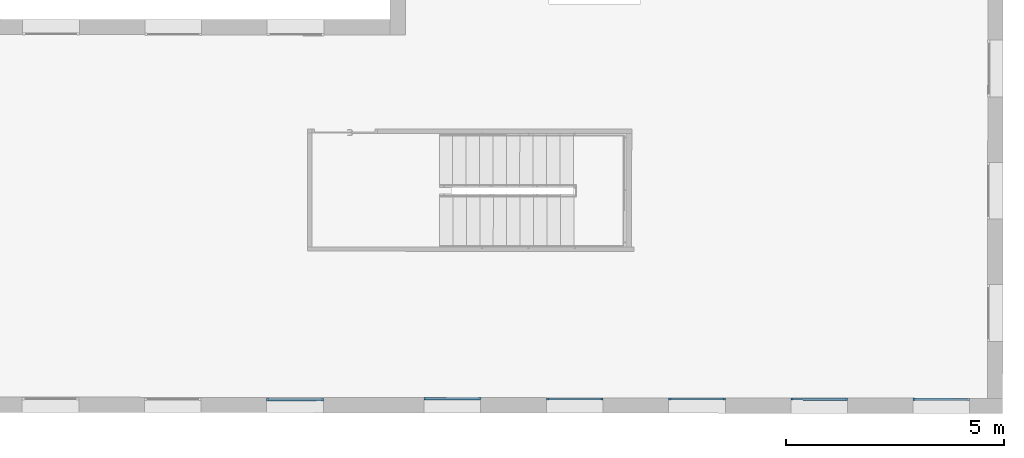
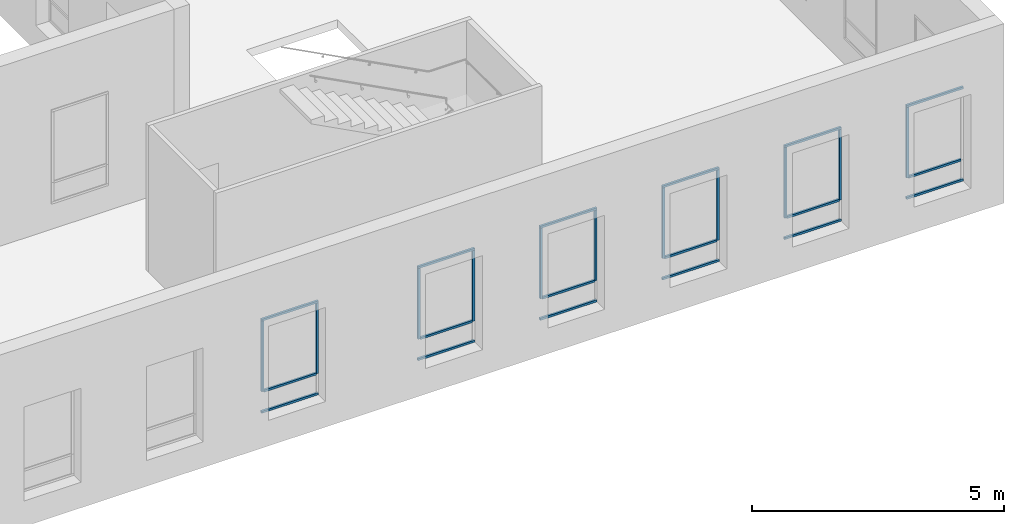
# One storey, part 7 of 35: 29 members, 6 elements without a shape of their own.
"""IFC2X3 building model written with IfcOpenShell, lengths in metres."""

from ifc_helpers import new_model, entity, si_unit, converted_unit, derived_unit, direction, frame, frame_2d, origin, origin_2d_with_axis, place, context, subcontext, project, spatial, rectangle, extrude, source, transform, mapped, material, type_object, type_shapes, element, aggregate, save


model = new_model("IFC2X3")

# Units and contexts
model_context = context("Model", 3, precision=1e-05, world=origin(), true_north=direction((6.123233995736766e-17, 1.0)))
body_context = subcontext(model_context, "Body", "Model", "MODEL_VIEW")
ifc_project = project(units=[si_unit("LENGTHUNIT", "METRE"), si_unit("AREAUNIT", "SQUARE_METRE"), converted_unit("PLANEANGLEUNIT", "DEGREE", entity("IfcPlaneAngleMeasure", 0.017453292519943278), si_unit("PLANEANGLEUNIT", "RADIAN"), dimensions=[0, 0, 0, 0, 0, 0, 0]), derived_unit("THERMALTRANSMITTANCEUNIT", [(si_unit("MASSUNIT", "GRAM", prefix="KILO"), 1), (si_unit("THERMODYNAMICTEMPERATUREUNIT", "KELVIN"), -1), (si_unit("TIMEUNIT", "SECOND"), -3)])], contexts=[model_context])

# Site, building, storey
site_placement = place(None, frame((1253.6752467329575, 2072.143113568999, 91.49999999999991), z_axis=(0.0, 0.0, 1.0), x_axis=(0.7237211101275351, 0.6900925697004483, 0.0)))
site = spatial("IfcSite", under=ifc_project, at=site_placement, Name="Surface", CompositionType="ELEMENT")
building_placement = place(site_placement, origin())
building = spatial("IfcBuilding", under=site, at=building_placement, CompositionType="ELEMENT")
storey_placement = place(building_placement, frame((0.0, 0.0, 3.549999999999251)))
storey = spatial("IfcBuildingStorey", under=building, at=storey_placement, Name="1-R+1", CompositionType="ELEMENT", Elevation=3.549999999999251)

# Curtain wall, member
curtain_wall_type = type_object("IfcCurtainWallType", Name="Mur-rideau:Menuiserie Ext 1F+1OB VERTIC", PredefinedType="NOTDEFINED")
curtain_wall_1_placement = place(storey_placement, frame((0.0, 0.0, -3.549999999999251)))
curtain_wall_1 = element("IfcCurtainWall", 1, at=curtain_wall_1_placement, inside=storey, type_object=curtain_wall_type, Name="Mur-rideau:Menuiserie Ext 1F+1OB VERTIC", ObjectType="Mur-rideau:Menuiserie Ext 1F+1OB VERTIC")
ifc_material = material(Name="OMD_Aluminium Men Ext")
member_type_1 = type_object("IfcMemberType", Name="Meneau rectangulaire:50x50", PredefinedType="MULLION", material=ifc_material)
shared_shape_1 = source(origin(), body_context, "Body", "SweptSolid", [
    extrude(rectangle(XDim=0.05, YDim=0.049999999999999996, at=origin_2d_with_axis()), frame((-0.025, 0.0, -1.2996959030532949), z_axis=(0.0, 0.0, 1.0), x_axis=(-1.0, 0.0, 0.0)), (0.0, 0.0, 1.0), 1.2996959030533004),
])
type_shapes(member_type_1, [shared_shape_1])
member_1_placement = place(curtain_wall_1_placement, frame((178.03940840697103, -28.072796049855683, 6.4499999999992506), z_axis=(-0.7228702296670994, 0.6909838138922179, 0.0), x_axis=(0.0, 0.0, 1.0)))
member_1 = element("IfcMember", 2, at=member_1_placement, type_object=member_type_1, material=ifc_material, Name="Meneau rectangulaire:50x50", ObjectType="Meneau rectangulaire:50x50", context=body_context, shape_type="MappedRepresentation", body=[
    mapped(shared_shape_1, transform((0.0, 0.0, 0.0), scale=1.0)),
])

curtain_wall_2_placement = place(storey_placement, frame((0.0, 0.0, -3.549999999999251)))
curtain_wall_2 = element("IfcCurtainWall", 3, at=curtain_wall_2_placement, inside=storey, type_object=curtain_wall_type, Name="Mur-rideau:Menuiserie Ext 1F+1OB VERTIC", ObjectType="Mur-rideau:Menuiserie Ext 1F+1OB VERTIC")
member_2_placement = place(curtain_wall_2_placement, frame((176.0215320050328, -26.14392987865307, 6.4499999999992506), z_axis=(-0.7228702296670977, 0.6909838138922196, 0.0), x_axis=(0.0, 0.0, 1.0)))
member_2 = element("IfcMember", 4, at=member_2_placement, type_object=member_type_1, material=ifc_material, Name="Meneau rectangulaire:50x50", ObjectType="Meneau rectangulaire:50x50", context=body_context, shape_type="MappedRepresentation", body=[
    mapped(shared_shape_1, transform((0.0, 0.0, 0.0), scale=1.0)),
])

curtain_wall_3_placement = place(storey_placement, frame((0.0, 0.0, -3.549999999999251)))
curtain_wall_3 = element("IfcCurtainWall", 5, at=curtain_wall_3_placement, inside=storey, type_object=curtain_wall_type, Name="Mur-rideau:Menuiserie Ext 1F+1OB VERTIC", ObjectType="Mur-rideau:Menuiserie Ext 1F+1OB VERTIC")
member_3_placement = place(curtain_wall_3_placement, frame((173.99749536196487, -24.209175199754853, 6.4499999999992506), z_axis=(-0.7228702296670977, 0.6909838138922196, 0.0), x_axis=(0.0, 0.0, 1.0)))
member_3 = element("IfcMember", 6, at=member_3_placement, type_object=member_type_1, material=ifc_material, Name="Meneau rectangulaire:50x50", ObjectType="Meneau rectangulaire:50x50", context=body_context, shape_type="MappedRepresentation", body=[
    mapped(shared_shape_1, transform((0.0, 0.0, 0.0), scale=1.0)),
])

curtain_wall_4_placement = place(storey_placement, frame((0.0, 0.0, -3.549999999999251)))
curtain_wall_4 = element("IfcCurtainWall", 7, at=curtain_wall_4_placement, inside=storey, type_object=curtain_wall_type, Name="Mur-rideau:Menuiserie Ext 1F+1OB VERTIC", ObjectType="Mur-rideau:Menuiserie Ext 1F+1OB VERTIC")
member_4_placement = place(curtain_wall_4_placement, frame((171.97345871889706, -22.274420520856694, 6.4499999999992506), z_axis=(-0.7228702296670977, 0.6909838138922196, 0.0), x_axis=(0.0, 0.0, 1.0)))
member_4 = element("IfcMember", 8, at=member_4_placement, type_object=member_type_1, material=ifc_material, Name="Meneau rectangulaire:50x50", ObjectType="Meneau rectangulaire:50x50", context=body_context, shape_type="MappedRepresentation", body=[
    mapped(shared_shape_1, transform((0.0, 0.0, 0.0), scale=1.0)),
])

curtain_wall_5_placement = place(storey_placement, frame((0.0, 0.0, -3.549999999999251)))
curtain_wall_5 = element("IfcCurtainWall", 9, at=curtain_wall_5_placement, inside=storey, type_object=curtain_wall_type, Name="Mur-rideau:Menuiserie Ext 1F+1OB VERTIC", ObjectType="Mur-rideau:Menuiserie Ext 1F+1OB VERTIC")
member_5_placement = place(curtain_wall_5_placement, frame((169.94942207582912, -20.339665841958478, 6.4499999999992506), z_axis=(-0.7228702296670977, 0.6909838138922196, 0.0), x_axis=(0.0, 0.0, 1.0)))
member_5 = element("IfcMember", 10, at=member_5_placement, type_object=member_type_1, material=ifc_material, Name="Meneau rectangulaire:50x50", ObjectType="Meneau rectangulaire:50x50", context=body_context, shape_type="MappedRepresentation", body=[
    mapped(shared_shape_1, transform((0.0, 0.0, 0.0), scale=1.0)),
])

curtain_wall_6_placement = place(storey_placement, frame((0.0, 0.0, -3.549999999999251)))
curtain_wall_6 = element("IfcCurtainWall", 11, at=curtain_wall_6_placement, inside=storey, type_object=curtain_wall_type, Name="Mur-rideau:Menuiserie Ext 1F+1OB VERTIC", ObjectType="Mur-rideau:Menuiserie Ext 1F+1OB VERTIC")
member_6_placement = place(curtain_wall_6_placement, frame((167.32772762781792, -17.87235139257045, 6.4499999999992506), z_axis=(-0.7228702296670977, 0.6909838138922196, 0.0), x_axis=(0.0, 0.0, 1.0)))
member_6 = element("IfcMember", 12, at=member_6_placement, type_object=member_type_1, material=ifc_material, Name="Meneau rectangulaire:50x50", ObjectType="Meneau rectangulaire:50x50", context=body_context, shape_type="MappedRepresentation", body=[
    mapped(shared_shape_1, transform((0.0, 0.0, 0.0), scale=1.0)),
])

# Member
member_type_2 = type_object("IfcMemberType", Name="Meneau rectangulaire:50x50", PredefinedType="MULLION", material=ifc_material)
shared_shape_2 = source(origin(), body_context, "Body", "SweptSolid", [
    extrude(rectangle(XDim=0.05, YDim=0.05, at=origin_2d_with_axis()), frame((-0.025, 0.0, -1.2996959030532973), z_axis=(0.0, 0.0, 1.0), x_axis=(-1.0, 0.0, 0.0)), (0.0, 0.0, 1.0), 1.2996959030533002),
])
type_shapes(member_type_2, [shared_shape_2])
member_7_placement = place(curtain_wall_1_placement, frame((178.97891988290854, -28.970864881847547, 4.169999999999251), z_axis=(0.7228702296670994, -0.6909838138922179, 0.0), x_axis=(0.0, 0.0, -1.0)))
member_7 = element("IfcMember", 13, at=member_7_placement, type_object=member_type_2, material=ifc_material, Name="Meneau rectangulaire:50x50", ObjectType="Meneau rectangulaire:50x50", context=body_context, shape_type="MappedRepresentation", body=[
    mapped(shared_shape_2, transform((0.0, 0.0, 0.0), scale=1.0)),
])

member_8_placement = place(curtain_wall_2_placement, frame((176.96104348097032, -27.041998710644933, 4.169999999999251), z_axis=(0.7228702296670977, -0.6909838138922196, 0.0), x_axis=(0.0, 0.0, -1.0)))
member_8 = element("IfcMember", 14, at=member_8_placement, type_object=member_type_2, material=ifc_material, Name="Meneau rectangulaire:50x50", ObjectType="Meneau rectangulaire:50x50", context=body_context, shape_type="MappedRepresentation", body=[
    mapped(shared_shape_2, transform((0.0, 0.0, 0.0), scale=1.0)),
])

member_9_placement = place(curtain_wall_3_placement, frame((174.9370068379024, -25.10724403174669, 4.169999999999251), z_axis=(0.7228702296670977, -0.6909838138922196, 0.0), x_axis=(0.0, 0.0, -1.0)))
member_9 = element("IfcMember", 15, at=member_9_placement, type_object=member_type_2, material=ifc_material, Name="Meneau rectangulaire:50x50", ObjectType="Meneau rectangulaire:50x50", context=body_context, shape_type="MappedRepresentation", body=[
    mapped(shared_shape_2, transform((0.0, 0.0, 0.0), scale=1.0)),
])

member_10_placement = place(curtain_wall_4_placement, frame((172.91297019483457, -23.17248935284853, 4.169999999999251), z_axis=(0.7228702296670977, -0.6909838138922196, 0.0), x_axis=(0.0, 0.0, -1.0)))
member_10 = element("IfcMember", 16, at=member_10_placement, type_object=member_type_2, material=ifc_material, Name="Meneau rectangulaire:50x50", ObjectType="Meneau rectangulaire:50x50", context=body_context, shape_type="MappedRepresentation", body=[
    mapped(shared_shape_2, transform((0.0, 0.0, 0.0), scale=1.0)),
])

member_11_placement = place(curtain_wall_5_placement, frame((170.88893355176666, -21.237734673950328, 4.169999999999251), z_axis=(0.7228702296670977, -0.6909838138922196, 0.0), x_axis=(0.0, 0.0, -1.0)))
member_11 = element("IfcMember", 17, at=member_11_placement, type_object=member_type_2, material=ifc_material, Name="Meneau rectangulaire:50x50", ObjectType="Meneau rectangulaire:50x50", context=body_context, shape_type="MappedRepresentation", body=[
    mapped(shared_shape_2, transform((0.0, 0.0, 0.0), scale=1.0)),
])

member_12_placement = place(curtain_wall_6_placement, frame((168.26723910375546, -18.770420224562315, 4.169999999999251), z_axis=(0.7228702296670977, -0.6909838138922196, 0.0), x_axis=(0.0, 0.0, -1.0)))
member_12 = element("IfcMember", 18, at=member_12_placement, type_object=member_type_2, material=ifc_material, Name="Meneau rectangulaire:50x50", ObjectType="Meneau rectangulaire:50x50", context=body_context, shape_type="MappedRepresentation", body=[
    mapped(shared_shape_2, transform((0.0, 0.0, 0.0), scale=1.0)),
])

member_type_3 = type_object("IfcMemberType", Name="Meneau rectangulaire:50x50", PredefinedType="MULLION", material=ifc_material)
shared_shape_3 = source(origin(), body_context, "Body", "SweptSolid", [
    extrude(rectangle(XDim=0.05, YDim=0.049999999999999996, at=origin_2d_with_axis()), frame((-0.025, 0.0, -1.7099999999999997), z_axis=(0.0, 0.0, 1.0), x_axis=(-1.0, 0.0, 0.0)), (0.0, 0.0, 1.0), 1.7099999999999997),
])
type_shapes(member_type_3, [shared_shape_3])
member_13_placement = place(curtain_wall_2_placement, frame((176.96104348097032, -27.041998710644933, 6.399999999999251), z_axis=(0.0, 0.0, 1.0), x_axis=(0.7228702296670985, -0.6909838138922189, 0.0)))
member_13 = element("IfcMember", 19, at=member_13_placement, type_object=member_type_3, material=ifc_material, Name="Meneau rectangulaire:50x50", ObjectType="Meneau rectangulaire:50x50", context=body_context, shape_type="MappedRepresentation", body=[
    mapped(shared_shape_3, transform((0.0, 0.0, 0.0), scale=1.0)),
])

member_14_placement = place(curtain_wall_3_placement, frame((174.9370068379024, -25.107244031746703, 6.399999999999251), z_axis=(0.0, 0.0, 1.0), x_axis=(0.7228702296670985, -0.6909838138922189, 0.0)))
member_14 = element("IfcMember", 20, at=member_14_placement, type_object=member_type_3, material=ifc_material, Name="Meneau rectangulaire:50x50", ObjectType="Meneau rectangulaire:50x50", context=body_context, shape_type="MappedRepresentation", body=[
    mapped(shared_shape_3, transform((0.0, 0.0, 0.0), scale=1.0)),
])

member_15_placement = place(curtain_wall_4_placement, frame((172.91297019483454, -23.172489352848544, 6.399999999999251), z_axis=(0.0, 0.0, 1.0), x_axis=(0.7228702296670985, -0.6909838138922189, 0.0)))
member_15 = element("IfcMember", 21, at=member_15_placement, type_object=member_type_3, material=ifc_material, Name="Meneau rectangulaire:50x50", ObjectType="Meneau rectangulaire:50x50", context=body_context, shape_type="MappedRepresentation", body=[
    mapped(shared_shape_3, transform((0.0, 0.0, 0.0), scale=1.0)),
])

member_16_placement = place(curtain_wall_5_placement, frame((170.88893355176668, -21.237734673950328, 6.399999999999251), z_axis=(0.0, 0.0, 1.0), x_axis=(0.7228702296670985, -0.6909838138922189, 0.0)))
member_16 = element("IfcMember", 22, at=member_16_placement, type_object=member_type_3, material=ifc_material, Name="Meneau rectangulaire:50x50", ObjectType="Meneau rectangulaire:50x50", context=body_context, shape_type="MappedRepresentation", body=[
    mapped(shared_shape_3, transform((0.0, 0.0, 0.0), scale=1.0)),
])

member_17_placement = place(curtain_wall_6_placement, frame((168.26723910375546, -18.770420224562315, 6.399999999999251), z_axis=(0.0, 0.0, 1.0), x_axis=(0.7228702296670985, -0.6909838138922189, 0.0)))
member_17 = element("IfcMember", 23, at=member_17_placement, type_object=member_type_3, material=ifc_material, Name="Meneau rectangulaire:50x50", ObjectType="Meneau rectangulaire:50x50", context=body_context, shape_type="MappedRepresentation", body=[
    mapped(shared_shape_3, transform((0.0, 0.0, 0.0), scale=1.0)),
])

member_type_4 = type_object("IfcMemberType", Name="Meneau rectangulaire:50x50", PredefinedType="MULLION", material=ifc_material)
shared_shape_4 = source(origin(), body_context, "Body", "SweptSolid", [
    extrude(rectangle(XDim=0.05, YDim=0.049999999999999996, at=origin_2d_with_axis()), frame((-0.025, 0.0, -1.7099999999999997), z_axis=(0.0, 0.0, 1.0), x_axis=(-1.0, 0.0, 0.0)), (0.0, 0.0, 1.0), 1.7099999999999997),
])
type_shapes(member_type_4, [shared_shape_4])
member_18_placement = place(curtain_wall_1_placement, frame((178.03940840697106, -28.07279604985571, 4.689999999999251), z_axis=(0.0, 0.0, -1.0), x_axis=(-0.7228702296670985, 0.6909838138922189, 0.0)))
member_18 = element("IfcMember", 24, at=member_18_placement, type_object=member_type_4, material=ifc_material, Name="Meneau rectangulaire:50x50", ObjectType="Meneau rectangulaire:50x50", context=body_context, shape_type="MappedRepresentation", body=[
    mapped(shared_shape_4, transform((0.0, 0.0, 0.0), scale=1.0)),
])

member_19_placement = place(curtain_wall_2_placement, frame((176.02153200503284, -26.143929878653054, 4.689999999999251), z_axis=(0.0, 0.0, -1.0), x_axis=(-0.7228702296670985, 0.6909838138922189, 0.0)))
member_19 = element("IfcMember", 25, at=member_19_placement, type_object=member_type_4, material=ifc_material, Name="Meneau rectangulaire:50x50", ObjectType="Meneau rectangulaire:50x50", context=body_context, shape_type="MappedRepresentation", body=[
    mapped(shared_shape_4, transform((0.0, 0.0, 0.0), scale=1.0)),
])

member_20_placement = place(curtain_wall_3_placement, frame((173.99749536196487, -24.20917519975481, 4.689999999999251), z_axis=(0.0, 0.0, -1.0), x_axis=(-0.7228702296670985, 0.6909838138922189, 0.0)))
member_20 = element("IfcMember", 26, at=member_20_placement, type_object=member_type_4, material=ifc_material, Name="Meneau rectangulaire:50x50", ObjectType="Meneau rectangulaire:50x50", context=body_context, shape_type="MappedRepresentation", body=[
    mapped(shared_shape_4, transform((0.0, 0.0, 0.0), scale=1.0)),
])

member_21_placement = place(curtain_wall_4_placement, frame((171.97345871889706, -22.27442052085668, 4.689999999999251), z_axis=(0.0, 0.0, -1.0), x_axis=(-0.7228702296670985, 0.6909838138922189, 0.0)))
member_21 = element("IfcMember", 27, at=member_21_placement, type_object=member_type_4, material=ifc_material, Name="Meneau rectangulaire:50x50", ObjectType="Meneau rectangulaire:50x50", context=body_context, shape_type="MappedRepresentation", body=[
    mapped(shared_shape_4, transform((0.0, 0.0, 0.0), scale=1.0)),
])

member_22_placement = place(curtain_wall_5_placement, frame((169.94942207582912, -20.339665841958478, 4.689999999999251), z_axis=(0.0, 0.0, -1.0), x_axis=(-0.7228702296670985, 0.6909838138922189, 0.0)))
member_22 = element("IfcMember", 28, at=member_22_placement, type_object=member_type_4, material=ifc_material, Name="Meneau rectangulaire:50x50", ObjectType="Meneau rectangulaire:50x50", context=body_context, shape_type="MappedRepresentation", body=[
    mapped(shared_shape_4, transform((0.0, 0.0, 0.0), scale=1.0)),
])

member_23_placement = place(curtain_wall_6_placement, frame((167.32772762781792, -17.87235139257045, 4.689999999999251), z_axis=(0.0, 0.0, -1.0), x_axis=(-0.7228702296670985, 0.6909838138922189, 0.0)))
member_23 = element("IfcMember", 29, at=member_23_placement, type_object=member_type_4, material=ifc_material, Name="Meneau rectangulaire:50x50", ObjectType="Meneau rectangulaire:50x50", context=body_context, shape_type="MappedRepresentation", body=[
    mapped(shared_shape_4, transform((0.0, 0.0, 0.0), scale=1.0)),
])

member_type_5 = type_object("IfcMemberType", Name="Meneau rectangulaire:50x50", PredefinedType="MULLION", material=ifc_material)
shared_shape_5 = source(origin(), body_context, "Body", "SweptSolid", [
    extrude(rectangle(XDim=0.05, YDim=0.05, at=frame_2d((0.0, -1.734723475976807e-18), x_axis=(1.0, 0.0))), frame((0.0, 0.0, -1.1996959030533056), z_axis=(0.0, 0.0, 1.0), x_axis=(-1.0, 0.0, 0.0)), (0.0, 0.0, 1.0), 1.1996959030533),
])
type_shapes(member_type_5, [shared_shape_5])
member_24_placement = place(curtain_wall_1_placement, frame((178.07555191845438, -28.107345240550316, 4.689999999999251), z_axis=(-0.7228702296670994, 0.6909838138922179, 0.0), x_axis=(0.0, 0.0, 1.0)))
member_24 = element("IfcMember", 30, at=member_24_placement, type_object=member_type_5, material=ifc_material, Name="Meneau rectangulaire:50x50", ObjectType="Meneau rectangulaire:50x50", context=body_context, shape_type="MappedRepresentation", body=[
    mapped(shared_shape_5, transform((0.0, 0.0, 0.0), scale=1.0)),
])

aggregate(curtain_wall_1, [member_1, member_7, member_18, member_24])

member_25_placement = place(curtain_wall_2_placement, frame((176.05767551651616, -26.178479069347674, 4.689999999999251), z_axis=(-0.7228702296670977, 0.6909838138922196, 0.0), x_axis=(0.0, 0.0, 1.0)))
member_25 = element("IfcMember", 31, at=member_25_placement, type_object=member_type_5, material=ifc_material, Name="Meneau rectangulaire:50x50", ObjectType="Meneau rectangulaire:50x50", context=body_context, shape_type="MappedRepresentation", body=[
    mapped(shared_shape_5, transform((0.0, 0.0, 0.0), scale=1.0)),
])

aggregate(curtain_wall_2, [member_2, member_8, member_13, member_19, member_25])

member_26_placement = place(curtain_wall_3_placement, frame((174.03363887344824, -24.24372439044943, 4.689999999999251), z_axis=(-0.7228702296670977, 0.6909838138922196, 0.0), x_axis=(0.0, 0.0, 1.0)))
member_26 = element("IfcMember", 32, at=member_26_placement, type_object=member_type_5, material=ifc_material, Name="Meneau rectangulaire:50x50", ObjectType="Meneau rectangulaire:50x50", context=body_context, shape_type="MappedRepresentation", body=[
    mapped(shared_shape_5, transform((0.0, 0.0, 0.0), scale=1.0)),
])

aggregate(curtain_wall_3, [member_3, member_9, member_14, member_20, member_26])

member_27_placement = place(curtain_wall_4_placement, frame((172.00960223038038, -22.30896971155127, 4.689999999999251), z_axis=(-0.7228702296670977, 0.6909838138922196, 0.0), x_axis=(0.0, 0.0, 1.0)))
member_27 = element("IfcMember", 33, at=member_27_placement, type_object=member_type_5, material=ifc_material, Name="Meneau rectangulaire:50x50", ObjectType="Meneau rectangulaire:50x50", context=body_context, shape_type="MappedRepresentation", body=[
    mapped(shared_shape_5, transform((0.0, 0.0, 0.0), scale=1.0)),
])

aggregate(curtain_wall_4, [member_4, member_10, member_15, member_21, member_27])

member_28_placement = place(curtain_wall_5_placement, frame((169.9855655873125, -20.374215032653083, 4.689999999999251), z_axis=(-0.7228702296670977, 0.6909838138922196, 0.0), x_axis=(0.0, 0.0, 1.0)))
member_28 = element("IfcMember", 34, at=member_28_placement, type_object=member_type_5, material=ifc_material, Name="Meneau rectangulaire:50x50", ObjectType="Meneau rectangulaire:50x50", context=body_context, shape_type="MappedRepresentation", body=[
    mapped(shared_shape_5, transform((0.0, 0.0, 0.0), scale=1.0)),
])

aggregate(curtain_wall_5, [member_5, member_11, member_16, member_22, member_28])

member_29_placement = place(curtain_wall_6_placement, frame((167.3638711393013, -17.90690058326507, 4.689999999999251), z_axis=(-0.7228702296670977, 0.6909838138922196, 0.0), x_axis=(0.0, 0.0, 1.0)))
member_29 = element("IfcMember", 35, at=member_29_placement, type_object=member_type_5, material=ifc_material, Name="Meneau rectangulaire:50x50", ObjectType="Meneau rectangulaire:50x50", context=body_context, shape_type="MappedRepresentation", body=[
    mapped(shared_shape_5, transform((0.0, 0.0, 0.0), scale=1.0)),
])

aggregate(curtain_wall_6, [member_6, member_12, member_17, member_23, member_29])

save(model, "model.ifc")
